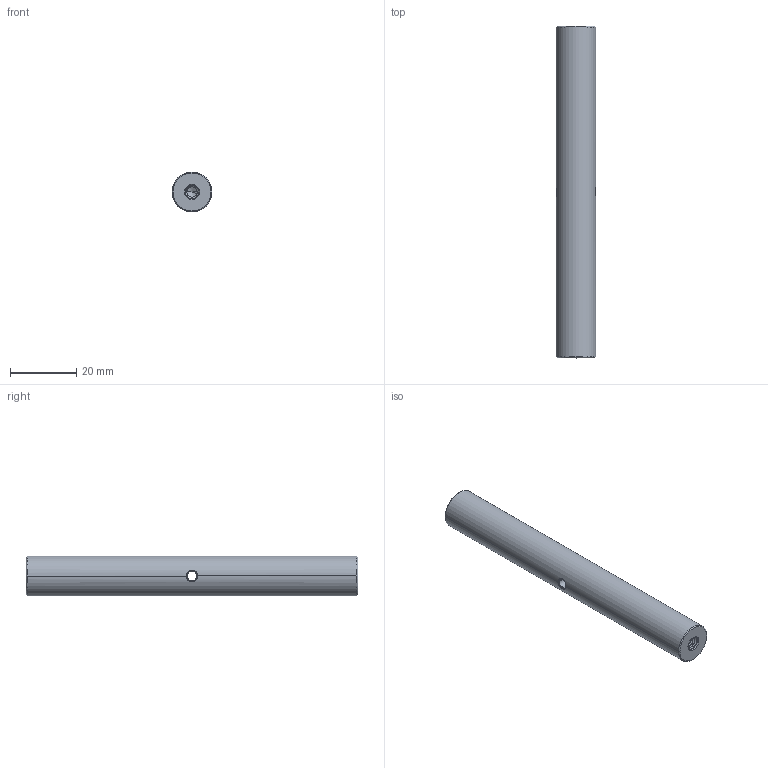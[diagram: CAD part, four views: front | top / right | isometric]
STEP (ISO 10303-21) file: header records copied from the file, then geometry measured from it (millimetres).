
FILE_DESCRIPTION((''),'2;1');
FILE_NAME('PCA10-S2','2020-12-11T',('Administrator'),(''),'CREO PARAMETRIC BY PTC INC, 2015290','CREO PARAMETRIC BY PTC INC, 2015290','');
FILE_SCHEMA(('CONFIG_CONTROL_DESIGN'));
Length unit declared in the file: millimetre
Products named in the file (1): PCA10-S2
Bounding box: 12 x 100 x 12 mm (x, y, z)
Volume: 11064.5 mm3; surface area: 4335.2 mm2
Topology: 1 solids, 1 shells, 80 faces, 216 edges, 134 vertices
Faces by surface type: cylinder 42, bspline 24, cone 12, plane 2
Entity records: 5846 total; most frequent: CARTESIAN_POINT 4114, ORIENTED_EDGE 424, DIRECTION 228, EDGE_CURVE 212, VERTEX_POINT 134, B_SPLINE_CURVE_WITH_KNOTS 116, EDGE_LOOP 82, FACE_OUTER_BOUND 80
